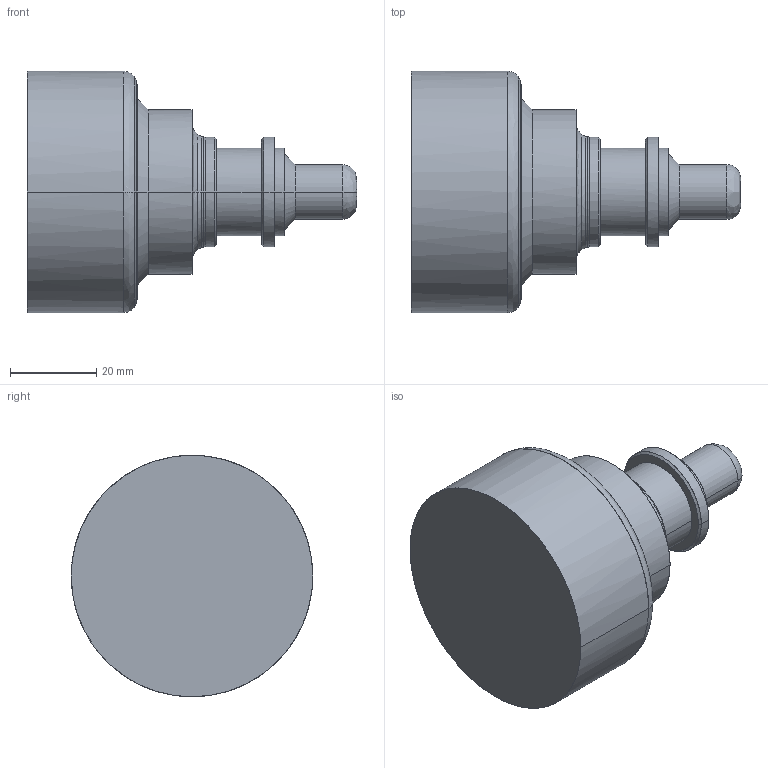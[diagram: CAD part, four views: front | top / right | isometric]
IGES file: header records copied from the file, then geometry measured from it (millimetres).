
Start section: SolidWorks IGES file using analytic representation for surfaces
Global section: file name: C:\Users\md90767\OneDrive - harriscomputer\Desktop\Current Launchpad Projects\V13 - GETTING STARTED\Part Files\Lathe GS IGS.igs; native system: SolidWorks 2025; preprocessor: SolidWorks 2025; author: md90767; date: 250923.124737; units: inch
Bounding box: 76.2 x 55.88 x 55.88 mm (x, y, z)
Surface area: 12743.3 mm2 (no closed solid volume)
Topology: 0 solids, 0 shells, 46 faces, 752 edges, 752 vertices
Faces by surface type: bspline 46
